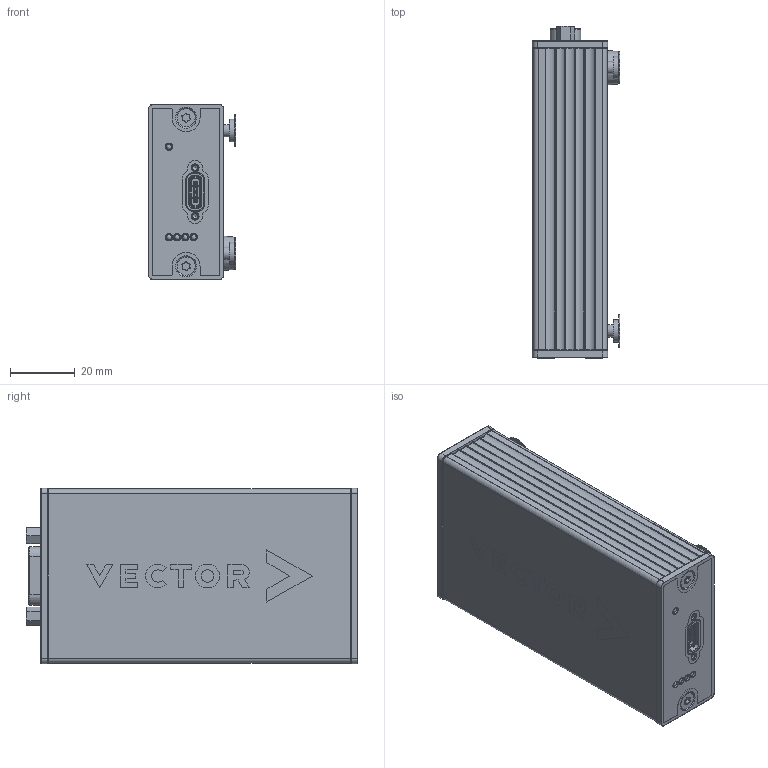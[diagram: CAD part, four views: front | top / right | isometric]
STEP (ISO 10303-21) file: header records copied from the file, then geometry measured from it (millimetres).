
FILE_DESCRIPTION(/* description */ (''),/* implementation_level */ '2;1');
FILE_NAME(/* name */ 'C:\Users\visnsg\Documents\Projekte\VN1615\VN1615.stp',/* time_stamp */ '2025-07-02T09:10:58+02:00',/* author */ ('visnsg'),/* organization */ (''),/* preprocessor_version */ 'ST-DEVELOPER v20',/* originating_system */ 'Autodesk Inventor 2022',/* authorisation */ '');
FILE_SCHEMA (('AUTOMOTIVE_DESIGN { 1 0 10303 214 3 1 1 }'));
Products named in the file (1): VN1615
Bounding box: 27.03 x 102.8 x 54.35 mm (x, y, z)
Surface area: 141180.4 mm2 (no closed solid volume)
Topology: 0 solids, 34 shells, 3321 faces, 8992 edges, 5877 vertices
Faces by surface type: plane 1769, cylinder 972, bspline 372, cone 148, torus 34, sphere 26
Full cylindrical faces by diameter (mm): 0.7 x15, 1.1 x15, 1.5 x4, 1.567 x2, 1.95 x8, 2 x5, 2.15 x5, 2.156 x2, 2.3 x17, 2.385 x2, 2.45 x4, 2.54 x2, 2.625 x4, 2.66 x4, 2.8 x4, 3 x5, 3.2 x2, 3.25 x2, 3.35 x4, 3.4 x4, 3.5 x12, 3.6 x4, 3.75 x8, 3.8 x4, 3.881 x1, 4.5 x4, 5.6 x4, 7 x4, 7.428 x1
Entity records: 115380 total; most frequent: CARTESIAN_POINT 27825, ORIENTED_EDGE 17952, DIRECTION 16967, EDGE_CURVE 8976, VERTEX_POINT 5877, AXIS2_PLACEMENT_3D 5706, LINE 5555, VECTOR 5555
